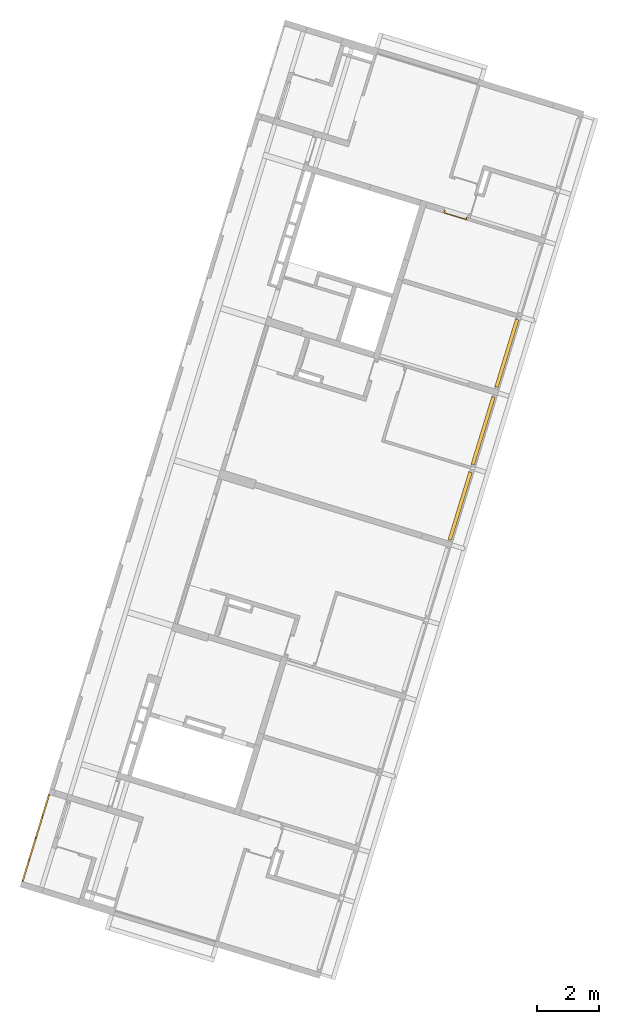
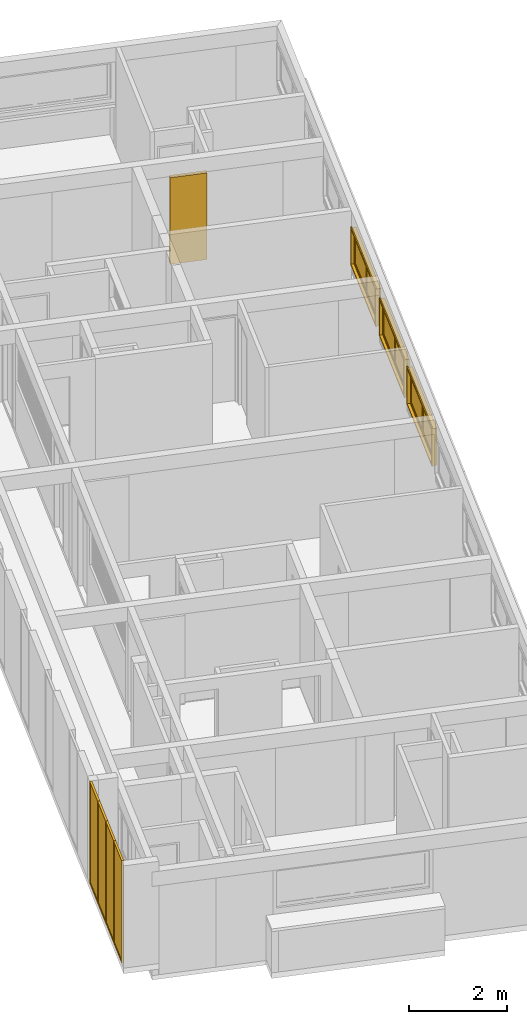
# One storey, part 17 of 18: 7 windows, 1 door.
"""IFC2X3 building model written with IfcOpenShell, lengths in millimetres."""

from ifc_helpers import new_model, entity, si_unit, converted_unit, derived_unit, money_unit, direction, frame, origin_with_axes, place, context, subcontext, project, spatial, open_shell, faceted_brep, surface_model, source, transform, mapped, type_object, element, save


model = new_model("IFC2X3")

# Units and contexts
model_context = context("Model", 3, precision=0.01, world=origin_with_axes(), true_north=direction((0.0, 1.0)))
body_context = subcontext(model_context, "Body", "Model", "MODEL_VIEW")
ifc_project = project(units=[si_unit("LENGTHUNIT", "METRE", prefix="MILLI"), si_unit("AREAUNIT", "SQUARE_METRE"), si_unit("VOLUMEUNIT", "CUBIC_METRE"), converted_unit("PLANEANGLEUNIT", "DEGREE", entity("IfcPlaneAngleMeasure", 0.0174532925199), si_unit("PLANEANGLEUNIT", "RADIAN"), dimensions=[0, 0, 0, 0, 0, 0, 0]), money_unit("USD"), converted_unit("TIMEUNIT", "Year", entity("IfcTimeMeasure", 31556926.0), si_unit("TIMEUNIT", "SECOND"), dimensions=[0, 0, 1, 0, 0, 0, 0]), si_unit("MASSUNIT", "GRAM", prefix="KILO"), si_unit("THERMODYNAMICTEMPERATUREUNIT", "DEGREE_CELSIUS"), si_unit("LUMINOUSINTENSITYUNIT", "LUMEN"), si_unit("ENERGYUNIT", "JOULE", prefix="MEGA"), derived_unit("THERMALCONDUCTANCEUNIT", [(si_unit("POWERUNIT", "WATT"), 1), (si_unit("LENGTHUNIT", "METRE"), -1), (si_unit("THERMODYNAMICTEMPERATUREUNIT", "KELVIN"), -1)]), derived_unit("SPECIFICHEATCAPACITYUNIT", [(si_unit("ENERGYUNIT", "JOULE"), 1), (si_unit("MASSUNIT", "GRAM", prefix="KILO"), -1), (si_unit("THERMODYNAMICTEMPERATUREUNIT", "KELVIN"), -1)]), derived_unit("MASSDENSITYUNIT", [(si_unit("MASSUNIT", "GRAM", prefix="KILO"), 1), (si_unit("VOLUMEUNIT", "CUBIC_METRE"), -1)])], contexts=[model_context])

# Site, building, storey
site_placement = place(None, frame((0.0, 0.0, 0.0), z_axis=(0.0, 0.0, 1.0), x_axis=(0.956304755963, -0.292371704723, 0.0)))
site = spatial("IfcSite", under=ifc_project, at=site_placement, Name="Site", CompositionType="ELEMENT")
building_placement = place(site_placement, origin_with_axes())
building = spatial("IfcBuilding", under=site, at=building_placement, Name="Building", CompositionType="ELEMENT")
storey_placement = place(building_placement, origin_with_axes())
storey = spatial("IfcBuildingStorey", under=building, at=storey_placement, Name="Pavimento tipo", CompositionType="ELEMENT", Elevation=0.0)

# Windows
window_style_1 = type_object("IfcWindowStyle", Name="Janela 26", ConstructionType="NOTDEFINED", OperationType="SINGLE_PANEL", ParameterTakesPrecedence=False, Sizeable=False)
shared_shape_1 = source(origin_with_axes(), body_context, "Body", "SurfaceModel", [
    faceted_brep([(330.0, -50.0, 2525.0), (365.0, -50.0, 2525.0), (365.0, 0.0, 2525.0), (330.0, 0.0, 2525.0), (330.0, -50.0, 35.0), (365.0, -50.0, 35.0), (365.0, 0.0, 35.0), (330.0, 0.0, 35.0)], [[[0, 1, 2, 3]], [[0, 4, 5, 1]], [[1, 5, 6, 2]], [[3, 2, 6, 7]], [[4, 0, 3, 7]], [[5, 4, 7, 6]]]),
    faceted_brep([(-330.0, -50.0, 35.0), (-365.0, -50.0, 35.0), (-365.0, 0.0, 35.0), (-330.0, 0.0, 35.0), (-330.0, -50.0, 2525.0), (-365.0, -50.0, 2525.0), (-365.0, 0.0, 2525.0), (-330.0, 0.0, 2525.0)], [[[0, 1, 2, 3]], [[0, 4, 5, 1]], [[1, 5, 6, 2]], [[3, 2, 6, 7]], [[4, 0, 3, 7]], [[5, 4, 7, 6]]]),
    faceted_brep([(330.0, -50.0, 35.0), (365.0, -50.0, 35.0), (365.0, 0.0, 35.0), (330.0, 0.0, 35.0), (-330.0, -50.0, 35.0), (-365.0, -50.0, 35.0), (-365.0, -50.0, 0.0), (365.0, -50.0, 0.0), (365.0, 0.0, 0.0), (-365.0, 0.0, 0.0), (-365.0, 0.0, 35.0), (-330.0, 0.0, 35.0)], [[[0, 1, 2, 3]], [[0, 4, 5, 6, 7, 1]], [[1, 7, 8, 2]], [[3, 2, 8, 9, 10, 11]], [[4, 0, 3, 11]], [[5, 4, 11, 10]], [[6, 5, 10, 9]], [[7, 6, 9, 8]]]),
    faceted_brep([(-330.0, -50.0, 2525.0), (-365.0, -50.0, 2525.0), (-365.0, 0.0, 2525.0), (-330.0, 0.0, 2525.0), (330.0, -50.0, 2525.0), (365.0, -50.0, 2525.0), (365.0, -50.0, 2560.0), (-365.0, -50.0, 2560.0), (-365.0, 0.0, 2560.0), (365.0, 0.0, 2560.0), (365.0, 0.0, 2525.0), (330.0, 0.0, 2525.0)], [[[0, 1, 2, 3]], [[0, 4, 5, 6, 7, 1]], [[1, 7, 8, 2]], [[3, 2, 8, 9, 10, 11]], [[4, 0, 3, 11]], [[5, 4, 11, 10]], [[6, 5, 10, 9]], [[7, 6, 9, 8]]]),
    surface_model("IfcShellBasedSurfaceModel", [(-330.0, -35.0, 35.0), (330.0, -35.0, 35.0), (330.0, -35.0, 2525.0), (-330.0, -35.0, 2525.0)], [open_shell([[[0, 1, 2, 3]]])]),
    surface_model("IfcShellBasedSurfaceModel", [(-330.0, -15.0, 35.0), (-330.0, -15.0, 2525.0), (330.0, -15.0, 2525.0), (330.0, -15.0, 35.0)], [open_shell([[[0, 1, 2, 3]]])]),
])
for number, where, z_axis, x_axis, name in (
    (1, (-503.287925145, 919.996811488, 250.0), (0.0, 0.0, 1.0), (6.79414882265e-07, -1.0, 0.0), "Apt 01 - J01"),
    (2, (-503.288421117, 1649.99681149, 250.0), (0.0, 0.0, 1.0), (6.79414882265e-07, -1.0, 0.0), "Apt 01 - J02"),
    (3, (-503.28891709, 2379.99681149, 250.0), (0.0, 0.0, 1.0), (6.79414882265e-07, -1.0, 0.0), "Apt 01 - J03"),
    (4, (-503.289413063, 3109.99681149, 250.0), (0.0, 0.0, 1.0), (6.79414882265e-07, -1.0, 0.0), "Apt 01 - J04"),
):
    element("IfcWindow", number, at=place(storey_placement, frame(where, z_axis=z_axis, x_axis=x_axis)), inside=storey, type_object=window_style_1, Name=name, OverallHeight=2560.0, OverallWidth=730.0, context=body_context, shape_type="MappedRepresentation", body=[
        mapped(shared_shape_1, transform((365.0, -45.0, 0.0))),
    ])
window_style_2 = type_object("IfcWindowStyle", Name="Janela 26", ConstructionType="NOTDEFINED", OperationType="DOUBLE_PANEL_VERTICAL", ParameterTakesPrecedence=False, Sizeable=False)
shared_shape_2 = source(origin_with_axes(), body_context, "Body", "SurfaceModel", [
    faceted_brep([(1130.0, 0.0, 0.0), (-1130.0, 0.0, 0.0), (-1130.0, 40.0, 0.0), (1130.0, 40.0, 0.0), (1130.0, 0.0, 925.0), (-1130.0, 0.0, 925.0), (1105.0, 0.0, 25.0), (-1105.0, 0.0, 25.0), (-1105.0, 0.0, 900.0), (1105.0, 0.0, 900.0), (-1130.0, 40.0, 925.0), (1130.0, 40.0, 925.0), (1105.0, 40.0, 25.0), (1105.0, 40.0, 900.0), (-1105.0, 40.0, 900.0), (-1105.0, 40.0, 25.0)], [[[0, 1, 2, 3]], [[0, 4, 5, 1], [6, 7, 8, 9]], [[1, 5, 10, 2]], [[3, 2, 10, 11], [12, 13, 14, 15]], [[4, 0, 3, 11]], [[5, 4, 11, 10]], [[7, 6, 12, 15]], [[8, 7, 15, 14]], [[9, 8, 14, 13]], [[6, 9, 13, 12]]]),
    faceted_brep([(1145.0, 65.0, -15.0), (1145.0, 40.0, -15.0), (1105.0, 40.0, 25.0), (1105.0, 65.0, 25.0), (1145.0, 65.0, 940.0), (1145.0, 40.0, 940.0), (1105.0, 40.0, 900.0), (1105.0, 65.0, 900.0)], [[[0, 1, 2, 3]], [[4, 5, 1, 0]], [[1, 5, 6, 2]], [[3, 2, 6, 7]], [[0, 3, 7, 4]], [[7, 6, 5, 4]]]),
    faceted_brep([(-1145.0, 65.0, 940.0), (-1145.0, 40.0, 940.0), (-1105.0, 40.0, 900.0), (-1105.0, 65.0, 900.0), (-1145.0, 65.0, -15.0), (-1145.0, 40.0, -15.0), (-1105.0, 40.0, 25.0), (-1105.0, 65.0, 25.0)], [[[0, 1, 2, 3]], [[4, 5, 1, 0]], [[1, 5, 6, 2]], [[3, 2, 6, 7]], [[0, 3, 7, 4]], [[7, 6, 5, 4]]]),
    faceted_brep([(-1145.0, 65.0, -15.0), (-1145.0, 40.0, -15.0), (-1105.0, 40.0, 25.0), (-1105.0, 65.0, 25.0), (1145.0, 65.0, -15.0), (1145.0, 40.0, -15.0), (1105.0, 40.0, 25.0), (1105.0, 65.0, 25.0)], [[[0, 1, 2, 3]], [[4, 5, 1, 0]], [[1, 5, 6, 2]], [[3, 2, 6, 7]], [[0, 3, 7, 4]], [[7, 6, 5, 4]]]),
    faceted_brep([(1145.0, 65.0, 940.0), (1145.0, 40.0, 940.0), (1105.0, 40.0, 900.0), (1105.0, 65.0, 900.0), (-1145.0, 65.0, 940.0), (-1145.0, 40.0, 940.0), (-1105.0, 40.0, 900.0), (-1105.0, 65.0, 900.0)], [[[0, 1, 2, 3]], [[4, 5, 1, 0]], [[1, 5, 6, 2]], [[3, 2, 6, 7]], [[0, 3, 7, 4]], [[7, 6, 5, 4]]]),
    faceted_brep([(1045.0, -50.0, 840.0), (1130.0, -50.0, 840.0), (1130.0, 0.0, 840.0), (1045.0, 0.0, 840.0), (1045.0, -50.0, 85.0), (1130.0, -50.0, 85.0), (1130.0, 0.0, 85.0), (1045.0, 0.0, 85.0)], [[[0, 1, 2, 3]], [[0, 4, 5, 1]], [[1, 5, 6, 2]], [[3, 2, 6, 7]], [[4, 0, 3, 7]], [[5, 4, 7, 6]]]),
    faceted_brep([(-1045.0, -50.0, 85.0), (-1130.0, -50.0, 85.0), (-1130.0, 0.0, 85.0), (-1045.0, 0.0, 85.0), (-1045.0, -50.0, 840.0), (-1130.0, -50.0, 840.0), (-1130.0, 0.0, 840.0), (-1045.0, 0.0, 840.0)], [[[0, 1, 2, 3]], [[0, 4, 5, 1]], [[1, 5, 6, 2]], [[3, 2, 6, 7]], [[4, 0, 3, 7]], [[5, 4, 7, 6]]]),
    faceted_brep([(1045.0, -50.0, 85.0), (1130.0, -50.0, 85.0), (1130.0, 0.0, 85.0), (1045.0, 0.0, 85.0), (25.0, -50.0, 85.0), (-25.0, -50.0, 85.0), (-1045.0, -50.0, 85.0), (-1130.0, -50.0, 85.0), (-1130.0, -50.0, 0.0), (1130.0, -50.0, 0.0), (1130.0, 0.0, 0.0), (-1130.0, 0.0, 0.0), (-1130.0, 0.0, 85.0), (-1045.0, 0.0, 85.0), (-25.0, 0.0, 85.0), (25.0, 0.0, 85.0)], [[[0, 1, 2, 3]], [[0, 4, 5, 6, 7, 8, 9, 1]], [[1, 9, 10, 2]], [[3, 2, 10, 11, 12, 13, 14, 15]], [[4, 0, 3, 15]], [[5, 4, 15, 14]], [[6, 5, 14, 13]], [[7, 6, 13, 12]], [[8, 7, 12, 11]], [[9, 8, 11, 10]]]),
    faceted_brep([(25.0, -50.0, 840.0), (-25.0, -50.0, 840.0), (-25.0, 0.0, 840.0), (25.0, 0.0, 840.0), (1045.0, -50.0, 840.0), (1130.0, -50.0, 840.0), (1130.0, -50.0, 925.0), (-1130.0, -50.0, 925.0), (-1130.0, -50.0, 840.0), (-1045.0, -50.0, 840.0), (-1045.0, 0.0, 840.0), (-1130.0, 0.0, 840.0), (-1130.0, 0.0, 925.0), (1130.0, 0.0, 925.0), (1130.0, 0.0, 840.0), (1045.0, 0.0, 840.0)], [[[0, 1, 2, 3]], [[0, 4, 5, 6, 7, 8, 9, 1]], [[1, 9, 10, 2]], [[3, 2, 10, 11, 12, 13, 14, 15]], [[4, 0, 3, 15]], [[5, 4, 15, 14]], [[6, 5, 14, 13]], [[7, 6, 13, 12]], [[8, 7, 12, 11]], [[9, 8, 11, 10]]]),
    faceted_brep([(25.0, -50.0, 85.0), (-25.0, -50.0, 85.0), (-25.0, 0.0, 85.0), (25.0, 0.0, 85.0), (25.0, -50.0, 840.0), (-25.0, -50.0, 840.0), (-25.0, 0.0, 840.0), (25.0, 0.0, 840.0)], [[[0, 1, 2, 3]], [[0, 4, 5, 1]], [[1, 5, 6, 2]], [[3, 2, 6, 7]], [[4, 0, 3, 7]], [[5, 4, 7, 6]]]),
    surface_model("IfcShellBasedSurfaceModel", [(-25.0, -35.0, 85.0), (-25.0, -35.0, 840.0), (-1045.0, -35.0, 840.0), (-1045.0, -35.0, 85.0)], [open_shell([[[0, 1, 2, 3]]])]),
    surface_model("IfcShellBasedSurfaceModel", [(-25.0, -15.0, 85.0), (-1045.0, -15.0, 85.0), (-1045.0, -15.0, 840.0), (-25.0, -15.0, 840.0)], [open_shell([[[0, 1, 2, 3]]])]),
    surface_model("IfcShellBasedSurfaceModel", [(1045.0, -35.0, 85.0), (1045.0, -35.0, 840.0), (25.0, -35.0, 840.0), (25.0, -35.0, 85.0)], [open_shell([[[0, 1, 2, 3]]])]),
    surface_model("IfcShellBasedSurfaceModel", [(1045.0, -15.0, 85.0), (25.0, -15.0, 85.0), (25.0, -15.0, 840.0), (1045.0, -15.0, 840.0)], [open_shell([[[0, 1, 2, 3]]])]),
])
for number, where, z_axis, x_axis, name in (
    (5, (9441.71344835, 17215.0118732, 1250.0), (0.0, 0.0, 1.0), (0.0, 1.0, 0.0), "Apt 03 - J11"),
    (6, (9441.71344835, 14689.984673, 1250.0), (0.0, 0.0, 1.0), (0.0, 1.0, 0.0), "Apt 03 - J12"),
):
    element("IfcWindow", number, at=place(storey_placement, frame(where, z_axis=z_axis, x_axis=x_axis)), inside=storey, type_object=window_style_2, Name=name, OverallHeight=925.0, OverallWidth=2260.0, context=body_context, shape_type="MappedRepresentation", body=[
        mapped(shared_shape_2, transform((1130.0, 100.0, 0.0))),
    ])
window_style_3 = type_object("IfcWindowStyle", Name="Janela 26", ConstructionType="NOTDEFINED", OperationType="DOUBLE_PANEL_VERTICAL", ParameterTakesPrecedence=False, Sizeable=False)
shared_shape_3 = source(origin_with_axes(), body_context, "Body", "SurfaceModel", [
    faceted_brep([(-1130.0, 0.0, 0.0), (-1130.0, 40.0, 0.0), (1130.0, 40.0, 0.0), (1130.0, 0.0, 0.0), (-1130.0, 0.0, 925.0), (-1130.0, 40.0, 925.0), (1130.0, 40.0, 925.0), (-1105.0, 40.0, 25.0), (1105.0, 40.0, 25.0), (1105.0, 40.0, 900.0), (-1105.0, 40.0, 900.0), (1130.0, 0.0, 925.0), (-1105.0, 0.0, 25.0), (-1105.0, 0.0, 900.0), (1105.0, 0.0, 900.0), (1105.0, 0.0, 25.0)], [[[0, 1, 2, 3]], [[4, 5, 1, 0]], [[1, 5, 6, 2], [7, 8, 9, 10]], [[3, 2, 6, 11]], [[0, 3, 11, 4], [12, 13, 14, 15]], [[11, 6, 5, 4]], [[15, 8, 7, 12]], [[14, 9, 8, 15]], [[13, 10, 9, 14]], [[12, 7, 10, 13]]]),
    faceted_brep([(-1145.0, 65.0, -15.0), (-1105.0, 65.0, 25.0), (-1105.0, 40.0, 25.0), (-1145.0, 40.0, -15.0), (-1145.0, 65.0, 940.0), (-1105.0, 65.0, 900.0), (-1105.0, 40.0, 900.0), (-1145.0, 40.0, 940.0)], [[[0, 1, 2, 3]], [[0, 4, 5, 1]], [[1, 5, 6, 2]], [[3, 2, 6, 7]], [[4, 0, 3, 7]], [[5, 4, 7, 6]]]),
    faceted_brep([(1145.0, 65.0, 940.0), (1105.0, 65.0, 900.0), (1105.0, 40.0, 900.0), (1145.0, 40.0, 940.0), (1145.0, 65.0, -15.0), (1105.0, 65.0, 25.0), (1105.0, 40.0, 25.0), (1145.0, 40.0, -15.0)], [[[0, 1, 2, 3]], [[0, 4, 5, 1]], [[1, 5, 6, 2]], [[3, 2, 6, 7]], [[4, 0, 3, 7]], [[5, 4, 7, 6]]]),
    faceted_brep([(1145.0, 65.0, -15.0), (1105.0, 65.0, 25.0), (1105.0, 40.0, 25.0), (1145.0, 40.0, -15.0), (-1145.0, 65.0, -15.0), (-1105.0, 65.0, 25.0), (-1105.0, 40.0, 25.0), (-1145.0, 40.0, -15.0)], [[[0, 1, 2, 3]], [[0, 4, 5, 1]], [[1, 5, 6, 2]], [[3, 2, 6, 7]], [[4, 0, 3, 7]], [[5, 4, 7, 6]]]),
    faceted_brep([(-1145.0, 65.0, 940.0), (-1105.0, 65.0, 900.0), (-1105.0, 40.0, 900.0), (-1145.0, 40.0, 940.0), (1145.0, 65.0, 940.0), (1105.0, 65.0, 900.0), (1105.0, 40.0, 900.0), (1145.0, 40.0, 940.0)], [[[0, 1, 2, 3]], [[0, 4, 5, 1]], [[1, 5, 6, 2]], [[3, 2, 6, 7]], [[4, 0, 3, 7]], [[5, 4, 7, 6]]]),
    faceted_brep([(-1045.0, -50.0, 840.0), (-1045.0, 0.0, 840.0), (-1130.0, 0.0, 840.0), (-1130.0, -50.0, 840.0), (-1045.0, -50.0, 85.0), (-1045.0, 0.0, 85.0), (-1130.0, 0.0, 85.0), (-1130.0, -50.0, 85.0)], [[[0, 1, 2, 3]], [[4, 5, 1, 0]], [[1, 5, 6, 2]], [[3, 2, 6, 7]], [[0, 3, 7, 4]], [[7, 6, 5, 4]]]),
    faceted_brep([(1045.0, -50.0, 85.0), (1045.0, 0.0, 85.0), (1130.0, 0.0, 85.0), (1130.0, -50.0, 85.0), (1045.0, -50.0, 840.0), (1045.0, 0.0, 840.0), (1130.0, 0.0, 840.0), (1130.0, -50.0, 840.0)], [[[0, 1, 2, 3]], [[4, 5, 1, 0]], [[1, 5, 6, 2]], [[3, 2, 6, 7]], [[0, 3, 7, 4]], [[7, 6, 5, 4]]]),
    faceted_brep([(-1045.0, -50.0, 85.0), (-1045.0, 0.0, 85.0), (-1130.0, 0.0, 85.0), (-1130.0, -50.0, 85.0), (-25.0, -50.0, 85.0), (-25.0, 0.0, 85.0), (25.0, 0.0, 85.0), (1045.0, 0.0, 85.0), (1130.0, 0.0, 85.0), (1130.0, 0.0, 0.0), (-1130.0, 0.0, 0.0), (-1130.0, -50.0, 0.0), (1130.0, -50.0, 0.0), (1130.0, -50.0, 85.0), (1045.0, -50.0, 85.0), (25.0, -50.0, 85.0)], [[[0, 1, 2, 3]], [[4, 5, 1, 0]], [[1, 5, 6, 7, 8, 9, 10, 2]], [[3, 2, 10, 11]], [[0, 3, 11, 12, 13, 14, 15, 4]], [[15, 6, 5, 4]], [[14, 7, 6, 15]], [[13, 8, 7, 14]], [[12, 9, 8, 13]], [[11, 10, 9, 12]]]),
    faceted_brep([(-25.0, -50.0, 840.0), (-25.0, 0.0, 840.0), (25.0, 0.0, 840.0), (25.0, -50.0, 840.0), (-1045.0, -50.0, 840.0), (-1045.0, 0.0, 840.0), (-1130.0, 0.0, 840.0), (-1130.0, 0.0, 925.0), (1130.0, 0.0, 925.0), (1130.0, 0.0, 840.0), (1045.0, 0.0, 840.0), (1045.0, -50.0, 840.0), (1130.0, -50.0, 840.0), (1130.0, -50.0, 925.0), (-1130.0, -50.0, 925.0), (-1130.0, -50.0, 840.0)], [[[0, 1, 2, 3]], [[4, 5, 1, 0]], [[1, 5, 6, 7, 8, 9, 10, 2]], [[3, 2, 10, 11]], [[0, 3, 11, 12, 13, 14, 15, 4]], [[15, 6, 5, 4]], [[14, 7, 6, 15]], [[13, 8, 7, 14]], [[12, 9, 8, 13]], [[11, 10, 9, 12]]]),
    faceted_brep([(-25.0, -50.0, 85.0), (-25.0, 0.0, 85.0), (25.0, 0.0, 85.0), (25.0, -50.0, 85.0), (-25.0, -50.0, 840.0), (-25.0, 0.0, 840.0), (25.0, 0.0, 840.0), (25.0, -50.0, 840.0)], [[[0, 1, 2, 3]], [[4, 5, 1, 0]], [[1, 5, 6, 2]], [[3, 2, 6, 7]], [[0, 3, 7, 4]], [[7, 6, 5, 4]]]),
    surface_model("IfcShellBasedSurfaceModel", [(25.0, -35.0, 85.0), (1045.0, -35.0, 85.0), (1045.0, -35.0, 840.0), (25.0, -35.0, 840.0)], [open_shell([[[0, 1, 2, 3]]])]),
    surface_model("IfcShellBasedSurfaceModel", [(25.0, -15.0, 85.0), (25.0, -15.0, 840.0), (1045.0, -15.0, 840.0), (1045.0, -15.0, 85.0)], [open_shell([[[0, 1, 2, 3]]])]),
    surface_model("IfcShellBasedSurfaceModel", [(-1045.0, -35.0, 85.0), (-25.0, -35.0, 85.0), (-25.0, -35.0, 840.0), (-1045.0, -35.0, 840.0)], [open_shell([[[0, 1, 2, 3]]])]),
    surface_model("IfcShellBasedSurfaceModel", [(-1045.0, -15.0, 85.0), (-1045.0, -15.0, 840.0), (-25.0, -15.0, 840.0), (-25.0, -15.0, 85.0)], [open_shell([[[0, 1, 2, 3]]])]),
])
window_placement = place(storey_placement, frame((9441.71344835, 19814.984673, 1250.0), z_axis=(0.0, 0.0, 1.0), x_axis=(0.0, 1.0, 0.0)))
element("IfcWindow", 7, at=window_placement, inside=storey, type_object=window_style_3, Name="Apt 03 - J10", OverallHeight=925.0, OverallWidth=2260.0, context=body_context, shape_type="MappedRepresentation", body=[
    mapped(shared_shape_3, transform((1130.0, 100.0, 0.0))),
])

# Door
door_style = type_object("IfcDoorStyle", Name="Door 26", ConstructionType="NOTDEFINED", OperationType="SINGLE_SWING_RIGHT", ParameterTakesPrecedence=False, Sizeable=False)
shared_shape_4 = source(origin_with_axes(), body_context, "Body", "Brep", [
    faceted_brep([(-350.0, -30.0, 0.0), (-350.0, -30.0, 2130.0), (-350.0, -90.0, 2130.0), (-350.0, -90.0, 0.0), (-360.0, -30.0, 2130.0), (-360.0, -30.0, 0.0), (-360.0, 0.0, 2130.0), (-390.0, 0.0, 2130.0), (-390.0, -90.0, 2130.0), (-390.0, -90.0, 0.0), (-390.0, 0.0, 0.0), (-360.0, 0.0, 0.0)], [[[0, 1, 2, 3]], [[4, 1, 0, 5]], [[4, 6, 7, 8, 2, 1]], [[3, 2, 8, 9]], [[5, 0, 3, 9, 10, 11]], [[6, 4, 5, 11]], [[6, 11, 10, 7]], [[10, 9, 8, 7]]]),
    faceted_brep([(360.0, -30.0, 2130.0), (350.0, -30.0, 2130.0), (350.0, -90.0, 2130.0), (390.0, -90.0, 2130.0), (390.0, 0.0, 2130.0), (360.0, 0.0, 2130.0), (360.0, -30.0, 0.0), (350.0, -30.0, 0.0), (350.0, -90.0, 0.0), (390.0, -90.0, 0.0), (390.0, 0.0, 0.0), (360.0, 0.0, 0.0)], [[[0, 1, 2, 3, 4, 5]], [[1, 0, 6, 7]], [[1, 7, 8, 2]], [[3, 2, 8, 9]], [[4, 3, 9, 10]], [[11, 5, 4, 10]], [[0, 5, 11, 6]], [[6, 11, 10, 9, 8, 7]]]),
    faceted_brep([(-360.0, 0.0, 2140.0), (-360.0, 0.0, 2130.0), (-390.0, 0.0, 2130.0), (-390.0, 0.0, 2170.0), (390.0, 0.0, 2170.0), (390.0, 0.0, 2130.0), (360.0, 0.0, 2130.0), (360.0, 0.0, 2140.0), (-360.0, -30.0, 2140.0), (-360.0, -30.0, 2130.0), (-350.0, -30.0, 2130.0), (-350.0, -90.0, 2130.0), (-390.0, -90.0, 2130.0), (-390.0, -90.0, 2170.0), (390.0, -90.0, 2170.0), (390.0, -90.0, 2130.0), (360.0, -30.0, 2130.0), (350.0, -90.0, 2130.0), (350.0, -30.0, 2130.0), (360.0, -30.0, 2140.0)], [[[0, 1, 2, 3, 4, 5, 6, 7]], [[1, 0, 8, 9]], [[9, 10, 11, 12, 2, 1]], [[2, 12, 13, 3]], [[3, 13, 14, 4]], [[4, 14, 15, 5]], [[16, 6, 5, 15, 17, 18]], [[7, 6, 16, 19]], [[0, 7, 19, 8]], [[16, 18, 10, 9, 8, 19]], [[10, 18, 17, 11]], [[17, 15, 14, 13, 12, 11]]]),
    faceted_brep([(360.0, 0.0, 0.0), (360.0, -30.0, 0.0), (-360.0, -30.0, 0.0), (-360.0, 0.0, 0.0), (360.0, 0.0, 2140.0), (360.0, -30.0, 2140.0), (-360.0, -30.0, 2140.0), (-360.0, 0.0, 2140.0)], [[[0, 1, 2, 3]], [[4, 5, 1, 0]], [[1, 5, 6, 2]], [[3, 2, 6, 7]], [[0, 3, 7, 4]], [[7, 6, 5, 4]]]),
])
door_placement = place(storey_placement, frame((6851.71134418, 24739.9899304, 0.0), z_axis=(0.0, 0.0, 1.0), x_axis=(-1.0, -6.66308296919e-08, 0.0)))
element("IfcDoor", 8, at=door_placement, inside=storey, type_object=door_style, Name="Apt 04 - Porta 05", OverallHeight=2170.0, OverallWidth=780.0, context=body_context, shape_type="MappedRepresentation", body=[
    mapped(shared_shape_4, transform((390.000005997, 89.999868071, 0.0))),
])

save(model, "model.ifc")
